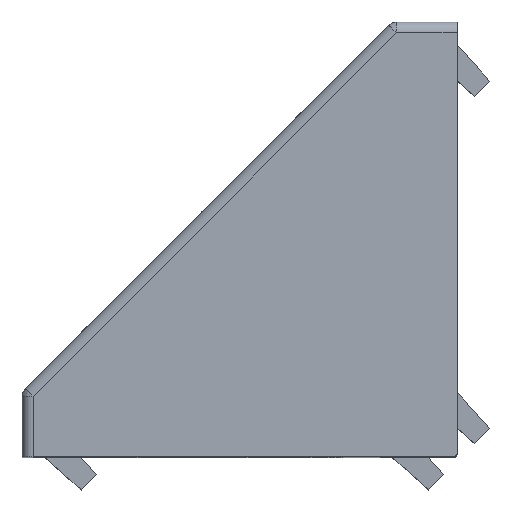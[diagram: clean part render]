
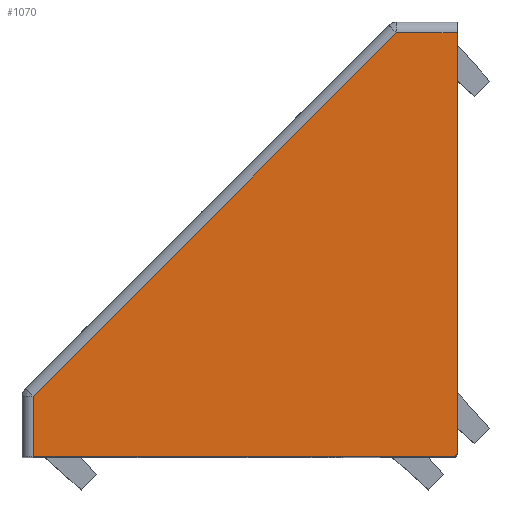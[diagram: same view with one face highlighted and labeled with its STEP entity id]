
A CAD part, top view. The second image highlights one B-rep face of the part: STEP entity #1070.
In plain terms, the highlighted planar face has unit normal (0, 0, 1).
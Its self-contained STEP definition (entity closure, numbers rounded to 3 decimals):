
#12 = LINE ( 'NONE', #2652, #4247 ) ;
#36 = DIRECTION ( 'NONE',  ( 1., 0., 0. ) ) ;
#196 = VERTEX_POINT ( 'NONE', #3971 ) ;
#214 = CARTESIAN_POINT ( 'NONE',  ( 0., 19.5, 8.5 ) ) ;
#217 = VECTOR ( 'NONE', #1930, 1000. ) ;
#486 = CARTESIAN_POINT ( 'NONE',  ( 0., 0.2, 8.5 ) ) ;
#522 = LINE ( 'NONE', #782, #3680 ) ;
#782 = CARTESIAN_POINT ( 'NONE',  ( 0., 0., 8.5 ) ) ;
#1070 = ADVANCED_FACE ( 'NONE', ( #2942 ), #4948, .T. ) ;
#1078 = ORIENTED_EDGE ( 'NONE', *, *, #1658, .T. ) ;
#1142 = LINE ( 'NONE', #214, #4512 ) ;
#1192 = DIRECTION ( 'NONE',  ( 0., 1., 0. ) ) ;
#1248 = EDGE_CURVE ( 'NONE', #2641, #4790, #1142, .T. ) ;
#1353 = ORIENTED_EDGE ( 'NONE', *, *, #1248, .T. ) ;
#1402 = AXIS2_PLACEMENT_3D ( 'NONE', #4131, #2500, #36 ) ;
#1436 = LINE ( 'NONE', #5191, #217 ) ;
#1472 = EDGE_CURVE ( 'NONE', #4790, #1730, #1436, .T. ) ;
#1563 = EDGE_CURVE ( 'NONE', #4592, #2641, #522, .T. ) ;
#1658 = EDGE_CURVE ( 'NONE', #3678, #196, #12, .T. ) ;
#1730 = VERTEX_POINT ( 'NONE', #4240 ) ;
#1766 = CARTESIAN_POINT ( 'NONE',  ( -0.2, 0.2, 8.5 ) ) ;
#1842 = LINE ( 'NONE', #3210, #4848 ) ;
#1930 = DIRECTION ( 'NONE',  ( -0.707, -0.707, 0. ) ) ;
#2187 = EDGE_CURVE ( 'NONE', #1730, #3678, #1842, .T. ) ;
#2191 = DIRECTION ( 'NONE',  ( 1., 0., 0. ) ) ;
#2500 = DIRECTION ( 'NONE',  ( 0., 0., 1. ) ) ;
#2640 = EDGE_CURVE ( 'NONE', #196, #4592, #2924, .T. ) ;
#2641 = VERTEX_POINT ( 'NONE', #4613 ) ;
#2652 = CARTESIAN_POINT ( 'NONE',  ( 0., 0., 8.5 ) ) ;
#2662 = AXIS2_PLACEMENT_3D ( 'NONE', #1766, #4633, #2191 ) ;
#2675 = DIRECTION ( 'NONE',  ( 1., 0., 0. ) ) ;
#2924 = CIRCLE ( 'NONE', #2662, 0.2 ) ;
#2942 = FACE_OUTER_BOUND ( 'NONE', #3193, .T. ) ;
#3138 = ORIENTED_EDGE ( 'NONE', *, *, #1563, .T. ) ;
#3193 = EDGE_LOOP ( 'NONE', ( #5187, #5319, #1078, #5221, #3138, #1353 ) ) ;
#3210 = CARTESIAN_POINT ( 'NONE',  ( -19.5, 20., 8.5 ) ) ;
#3227 = DIRECTION ( 'NONE',  ( 0., -1., 0. ) ) ;
#3394 = CARTESIAN_POINT ( 'NONE',  ( -19.5, 0., 8.5 ) ) ;
#3678 = VERTEX_POINT ( 'NONE', #3394 ) ;
#3680 = VECTOR ( 'NONE', #1192, 1000. ) ;
#3894 = DIRECTION ( 'NONE',  ( -1., 0., 0. ) ) ;
#3959 = CARTESIAN_POINT ( 'NONE',  ( -2.793, 19.5, 8.5 ) ) ;
#3971 = CARTESIAN_POINT ( 'NONE',  ( -0.2, 0., 8.5 ) ) ;
#4131 = CARTESIAN_POINT ( 'NONE',  ( 0., 20., 8.5 ) ) ;
#4240 = CARTESIAN_POINT ( 'NONE',  ( -19.5, 2.793, 8.5 ) ) ;
#4247 = VECTOR ( 'NONE', #2675, 1000. ) ;
#4512 = VECTOR ( 'NONE', #3894, 1000. ) ;
#4592 = VERTEX_POINT ( 'NONE', #486 ) ;
#4613 = CARTESIAN_POINT ( 'NONE',  ( 0., 19.5, 8.5 ) ) ;
#4633 = DIRECTION ( 'NONE',  ( 0., 0., 1. ) ) ;
#4790 = VERTEX_POINT ( 'NONE', #3959 ) ;
#4848 = VECTOR ( 'NONE', #3227, 1000. ) ;
#4948 = PLANE ( 'NONE',  #1402 ) ;
#5187 = ORIENTED_EDGE ( 'NONE', *, *, #1472, .T. ) ;
#5191 = CARTESIAN_POINT ( 'NONE',  ( -2.793, 19.5, 8.5 ) ) ;
#5221 = ORIENTED_EDGE ( 'NONE', *, *, #2640, .T. ) ;
#5319 = ORIENTED_EDGE ( 'NONE', *, *, #2187, .T. ) ;
